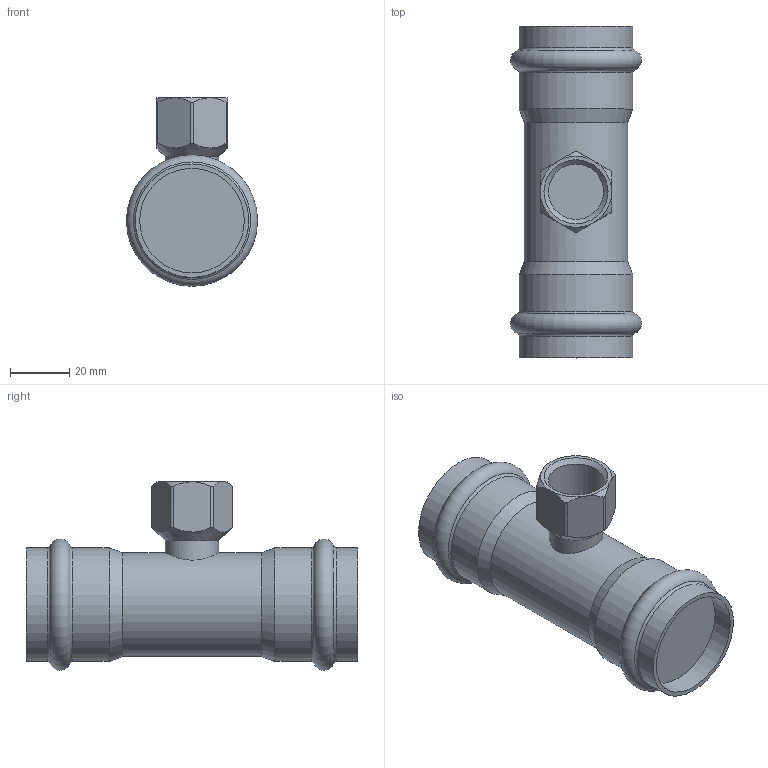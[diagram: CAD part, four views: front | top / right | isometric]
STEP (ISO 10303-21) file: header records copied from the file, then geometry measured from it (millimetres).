
FILE_DESCRIPTION(('STEP AP203'), '1');
FILE_NAME('VTi.932.I.350435', '', ('UNSPECIFIED'), ('UNSPECIFIED'), 'C3D Converter', 'C3D Toolkit', '');
FILE_SCHEMA(('CONFIG_CONTROL_DESIGN'));
Length unit declared in the file: millimetre
Bounding box: 44.29 x 112 x 63.64 mm (x, y, z)
Volume: 115612.5 mm3; surface area: 20814 mm2
Topology: 1 solids, 1 shells, 43 faces, 94 edges, 56 vertices
Faces by surface type: cylinder 15, plane 12, cone 10, torus 6
Full cylindrical faces by diameter (mm): 18 x1, 18.632 x1, 35 x1, 35.3 x2, 38.3 x4
Entity records: 2407 total; most frequent: CARTESIAN_POINT 1553, DIRECTION 156, ORIENTED_EDGE 148, EDGE_CURVE 74, AXIS2_PLACEMENT_3D 72, EDGE_LOOP 66, VERTEX_POINT 56, ADVANCED_FACE 43
